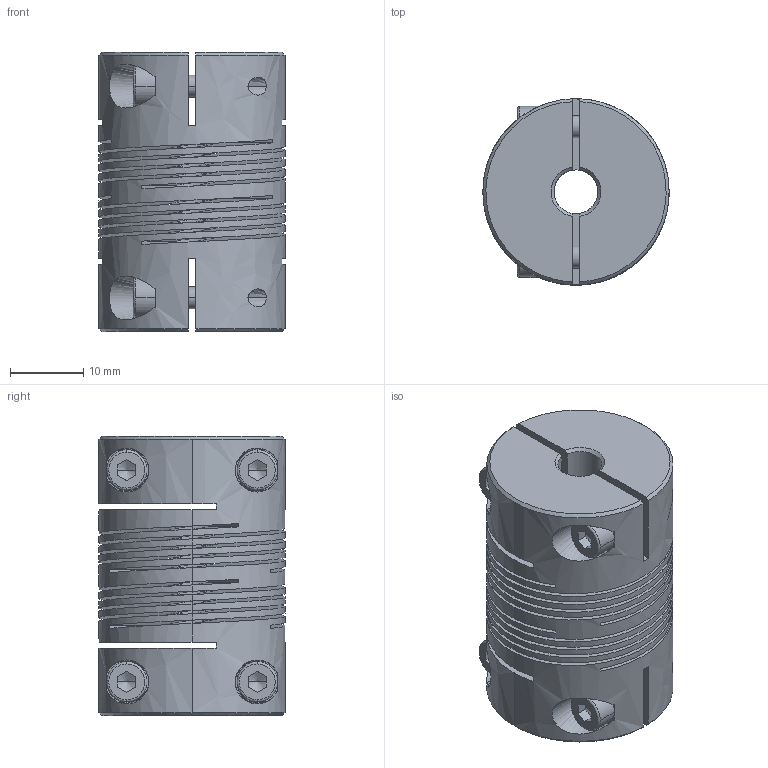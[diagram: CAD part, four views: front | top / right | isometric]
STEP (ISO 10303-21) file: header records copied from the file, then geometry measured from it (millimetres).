
FILE_DESCRIPTION((''),'2;1');
FILE_NAME('723_25','2026-02-24T',('SYSTEM'),(''),'PRO/ENGINEER BY PARAMETRIC TECHNOLOGY CORPORATION, 2016360','PRO/ENGINEER BY PARAMETRIC TECHNOLOGY CORPORATION, 2016360','');
FILE_SCHEMA(('AUTOMOTIVE_DESIGN { 1 0 10303 214 1 1 1 1 }'));
Length unit declared in the file: inch
Products named in the file (1): 723_25
Bounding box: 25.4 x 25.4 x 38.1 mm (x, y, z)
Volume: 14426.1 mm3; surface area: 15563.9 mm2
Topology: 1 solids, 1 shells, 209 faces, 609 edges, 403 vertices
Faces by surface type: bspline 209
Entity records: 16308 total; most frequent: CARTESIAN_POINT 10720, ORIENTED_EDGE 1202, EDGE_CURVE 601, B_SPLINE_CURVE_WITH_KNOTS 422, VERTEX_POINT 403, EDGE_LOOP 240, FACE_OUTER_BOUND 209, FILL_AREA_STYLE_COLOUR 209
